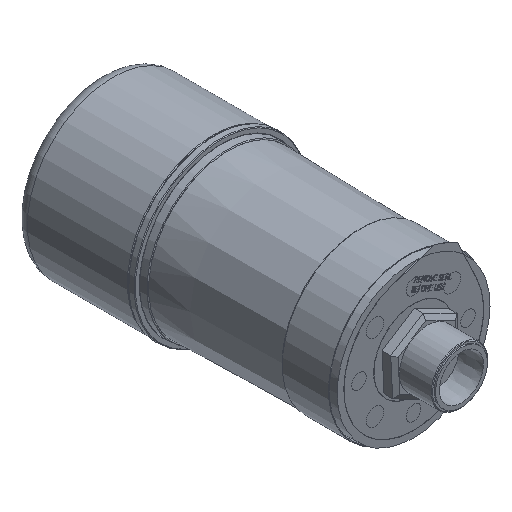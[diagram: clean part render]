
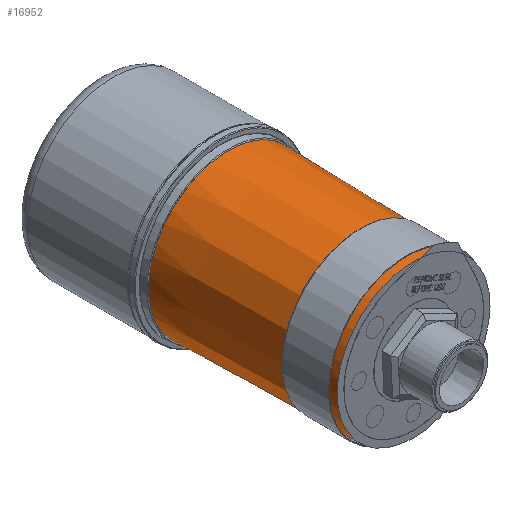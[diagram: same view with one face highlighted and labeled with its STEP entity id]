
A CAD part, isometric view. The second image highlights one B-rep face of the part: STEP entity #16952.
In plain terms, the highlighted conical face has half-angle 1 degrees and reference radius 58.734 mm.
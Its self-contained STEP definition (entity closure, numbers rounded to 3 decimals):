
#10881=CARTESIAN_POINT('',(37.687,0.0,43.387));
#10882=VERTEX_POINT('',#10881);
#10945=CARTESIAN_POINT('',(4.856,0.0,57.263));
#10946=VERTEX_POINT('',#10945);
#10986=CARTESIAN_POINT('',(0.0,0.0,0.0));
#10987=DIRECTION('',(0.0,1.0,0.0));
#10988=DIRECTION('',(-1.0,0.0,0.0));
#10989=AXIS2_PLACEMENT_3D('',#10986,#10987,#10988);
#10990=CIRCLE('',#10989,57.469);
#10991=EDGE_CURVE('',#10946,#10882,#10990,.T.);
#11089=CARTESIAN_POINT('',(-60.0,145.0,0.0));
#11090=VERTEX_POINT('',#11089);
#11091=CARTESIAN_POINT('',(0.0,145.0,0.0));
#11092=DIRECTION('',(0.0,1.0,0.0));
#11093=DIRECTION('',(-1.0,0.0,0.0));
#11094=AXIS2_PLACEMENT_3D('',#11091,#11092,#11093);
#11095=CIRCLE('',#11094,60.0);
#11096=EDGE_CURVE('',#11090,#11090,#11095,.T.);
#16928=CARTESIAN_POINT('',(0.0,0.0,0.0));
#16929=DIRECTION('',(0.0,1.0,0.0));
#16930=DIRECTION('',(-1.0,0.0,0.0));
#16931=AXIS2_PLACEMENT_3D('',#16928,#16929,#16930);
#16932=CIRCLE('',#16931,57.469);
#16933=EDGE_CURVE('',#10882,#10946,#16932,.T.);
#16940=CARTESIAN_POINT('',(0.0,72.5,0.0));
#16941=DIRECTION('',(0.0,1.0,0.0));
#16942=DIRECTION('',(-1.0,0.0,0.0));
#16943=AXIS2_PLACEMENT_3D('',#16940,#16941,#16942);
#16944=CONICAL_SURFACE('',#16943,58.735,1.);
#16945=ORIENTED_EDGE('',*,*,#11096,.F.);
#16946=EDGE_LOOP('',(#16945));
#16947=FACE_OUTER_BOUND('',#16946,.T.);
#16948=ORIENTED_EDGE('',*,*,#16933,.T.);
#16949=ORIENTED_EDGE('',*,*,#10991,.T.);
#16950=EDGE_LOOP('',(#16948,#16949));
#16951=FACE_BOUND('',#16950,.T.);
#16952=ADVANCED_FACE('',(#16947,#16951),#16944,.T.);
